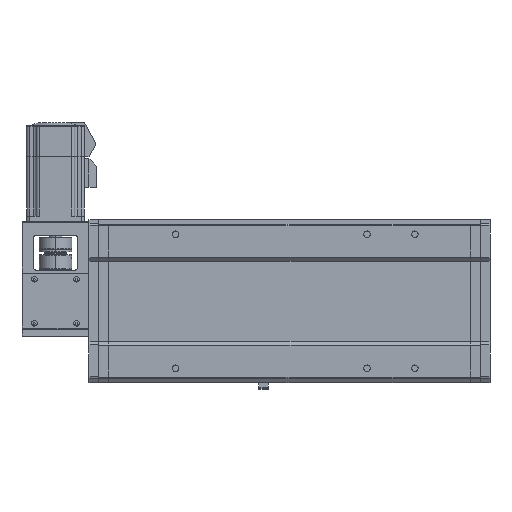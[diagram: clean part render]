
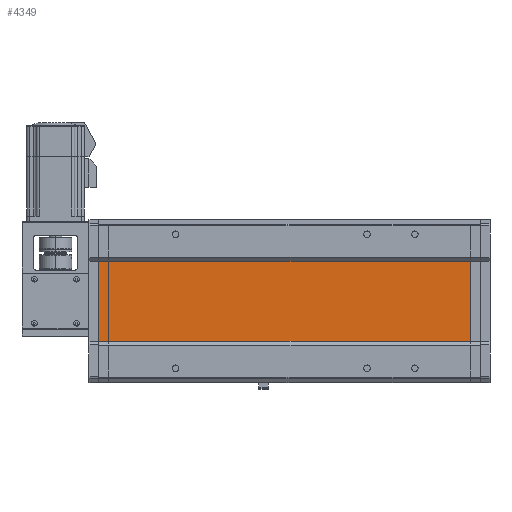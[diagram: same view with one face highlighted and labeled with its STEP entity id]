
A CAD part, front view. The second image highlights one B-rep face of the part: STEP entity #4349.
In plain terms, the highlighted planar face has unit normal (0, -1, 0).
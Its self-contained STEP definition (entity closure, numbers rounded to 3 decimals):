
#399=DIRECTION('',(0.,0.,-1.));
#400=VECTOR('',#399,84.);
#401=CARTESIAN_POINT('',(461.5,4.,42.));
#402=LINE('',#401,#400);
#1115=DIRECTION('',(1.,0.,0.));
#1116=VECTOR('',#1115,399.);
#1117=CARTESIAN_POINT('',(62.5,4.,-42.));
#1118=LINE('',#1117,#1116);
#1119=DIRECTION('',(1.,0.,0.));
#1120=VECTOR('',#1119,399.);
#1121=CARTESIAN_POINT('',(62.5,4.,42.));
#1122=LINE('',#1121,#1120);
#1607=DIRECTION('',(0.,0.,-1.));
#1608=VECTOR('',#1607,84.);
#1609=CARTESIAN_POINT('',(62.5,4.,42.));
#1610=LINE('',#1609,#1608);
#2181=CARTESIAN_POINT('',(62.5,4.,42.));
#2182=VERTEX_POINT('',#2181);
#2183=CARTESIAN_POINT('',(62.5,4.,-42.));
#2184=VERTEX_POINT('',#2183);
#2377=CARTESIAN_POINT('',(461.5,4.,42.));
#2378=VERTEX_POINT('',#2377);
#2379=CARTESIAN_POINT('',(461.5,4.,-42.));
#2380=VERTEX_POINT('',#2379);
#4336=CARTESIAN_POINT('',(260.,4.,0.));
#4337=DIRECTION('',(0.,1.,0.));
#4338=DIRECTION('',(0.,0.,1.));
#4339=AXIS2_PLACEMENT_3D('',#4336,#4337,#4338);
#4340=PLANE('',#4339);
#4342=ORIENTED_EDGE('',*,*,#4341,.T.);
#4343=ORIENTED_EDGE('',*,*,#3513,.T.);
#4344=ORIENTED_EDGE('',*,*,#4327,.F.);
#4346=ORIENTED_EDGE('',*,*,#4345,.F.);
#4347=EDGE_LOOP('',(#4342,#4343,#4344,#4346));
#4348=FACE_OUTER_BOUND('',#4347,.F.);
#3513=EDGE_CURVE('',#2378,#2380,#402,.T.);
#4327=EDGE_CURVE('',#2184,#2380,#1118,.T.);
#4341=EDGE_CURVE('',#2182,#2378,#1122,.T.);
#4345=EDGE_CURVE('',#2182,#2184,#1610,.T.);
#4349=ADVANCED_FACE('',(#4348),#4340,.F.);
